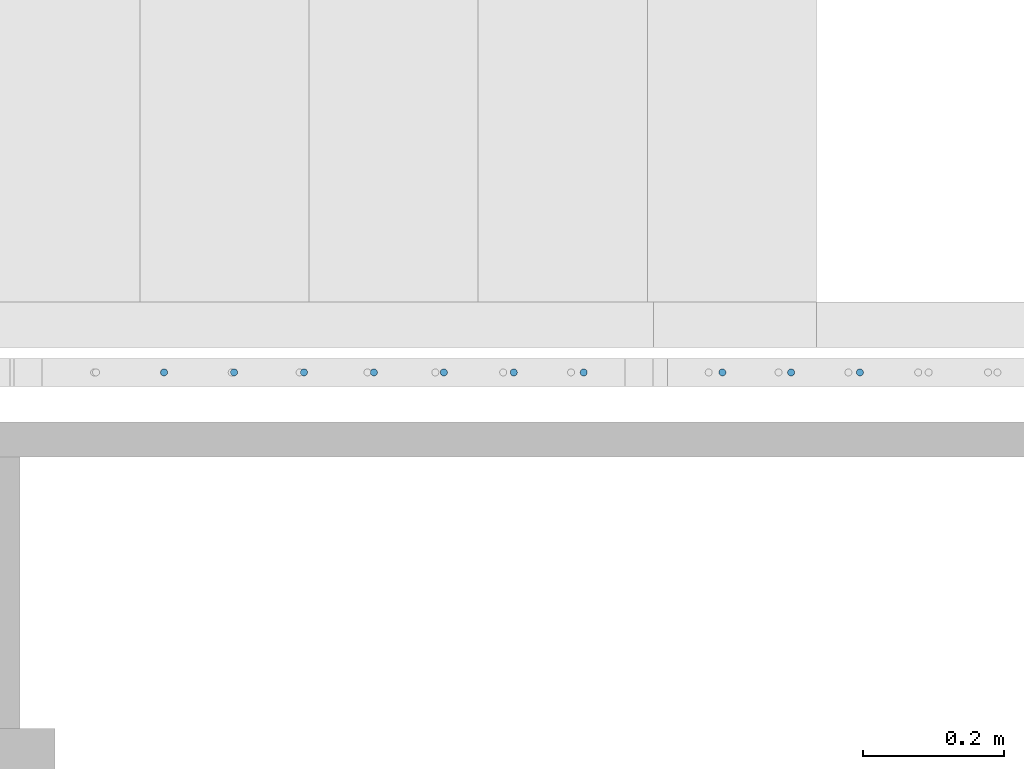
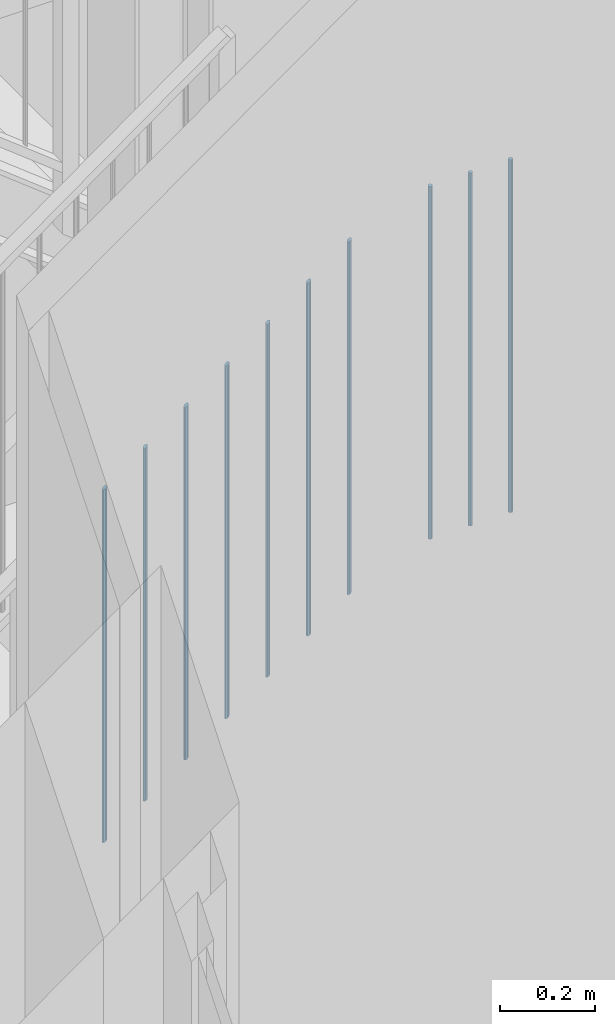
# One storey, part 17 of 135: 10 members, 1 element without a shape of its own.
"""IFC2X3 building model written with IfcOpenShell, lengths in millimetres."""

from ifc_helpers import new_model, entity, si_unit, converted_unit, derived_unit, money_unit, direction, frame, origin_with_axes, place, context, subcontext, project, spatial, faceted_brep, source, transform, mapped, material, type_object, type_shapes, element, aggregate, save


model = new_model("IFC2X3")

# Units and contexts
model_context = context("Model", 3, precision=0.01, world=origin_with_axes(), true_north=direction((0.0, 1.0)))
body_context = subcontext(model_context, "Body", "Model", "MODEL_VIEW")
ifc_project = project(units=[si_unit("LENGTHUNIT", "METRE", prefix="MILLI"), si_unit("AREAUNIT", "SQUARE_METRE"), si_unit("VOLUMEUNIT", "CUBIC_METRE"), converted_unit("PLANEANGLEUNIT", "DEGREE", entity("IfcPlaneAngleMeasure", 0.0174532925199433), si_unit("PLANEANGLEUNIT", "RADIAN"), dimensions=[0, 0, 0, 0, 0, 0, 0]), money_unit("EUR"), converted_unit("TIMEUNIT", "Year", entity("IfcTimeMeasure", 31557600.0), si_unit("TIMEUNIT", "SECOND"), dimensions=[0, 0, 1, 0, 0, 0, 0]), si_unit("MASSUNIT", "GRAM", prefix="KILO"), si_unit("THERMODYNAMICTEMPERATUREUNIT", "DEGREE_CELSIUS"), si_unit("LUMINOUSINTENSITYUNIT", "LUMEN"), si_unit("ENERGYUNIT", "JOULE", prefix="MEGA"), derived_unit("THERMALCONDUCTANCEUNIT", [(si_unit("POWERUNIT", "WATT"), 1), (si_unit("LENGTHUNIT", "METRE"), -1), (si_unit("THERMODYNAMICTEMPERATUREUNIT", "KELVIN"), -1)]), derived_unit("SPECIFICHEATCAPACITYUNIT", [(si_unit("ENERGYUNIT", "JOULE"), 1), (si_unit("MASSUNIT", "GRAM", prefix="KILO"), -1), (si_unit("THERMODYNAMICTEMPERATUREUNIT", "KELVIN"), -1)]), derived_unit("MASSDENSITYUNIT", [(si_unit("MASSUNIT", "GRAM", prefix="KILO"), 1), (si_unit("VOLUMEUNIT", "CUBIC_METRE"), -1)])], contexts=[model_context])

# Site, building, storey
site_placement = place(None, origin_with_axes())
site = spatial("IfcSite", under=ifc_project, at=site_placement, Name="Site", CompositionType="ELEMENT")
building_placement = place(site_placement, origin_with_axes())
building = spatial("IfcBuilding", under=site, at=building_placement, Name="Naam gebouw", CompositionType="ELEMENT")
storey_placement = place(building_placement, origin_with_axes())
storey = spatial("IfcBuildingStorey", under=building, at=storey_placement, Name="Begane grond N", CompositionType="ELEMENT", Elevation=0.0)

# Railing, members
railing_type = type_object("IfcRailingType", Name="Railing Type", PredefinedType="NOTDEFINED")
railing_placement = place(storey_placement, frame((56236.62159597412, 21185.9124251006, 157.4646725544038), z_axis=(0.0, 0.0, 1.0), x_axis=(1.0, 0.0, 0.0)))
railing = element("IfcRailing", 1, at=railing_placement, inside=storey, type_object=railing_type, Name="_Reling-x", PredefinedType="NOTDEFINED")
ifc_material = material(Name="Metaal - Staal C")
member_type = type_object("IfcMemberType", Name="IfcMember", PredefinedType="MEMBER")
shared_shape_1 = source(origin_with_axes(), body_context, "Body", "Brep", [
    faceted_brep([(0.0, -4.999999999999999, -3.602430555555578), (0.8682408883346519, -4.924038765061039, -3.547701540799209), (0.8682408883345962, -4.924038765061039, 903.9522984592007), (0.0, -4.999999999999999, 903.8975694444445), (-0.8682408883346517, -4.924038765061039, -3.547701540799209), (-1.710100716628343, -4.698463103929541, -3.385177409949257), (-2.500000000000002, -4.330127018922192, -3.119796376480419), (-3.213938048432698, -3.830222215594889, -2.759621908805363), (-3.830222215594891, -3.213938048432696, -2.315597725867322), (-4.330127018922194, -2.5, -1.80121527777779), (-4.698463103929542, -1.710100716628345, -1.232103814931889), (-4.924038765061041, -0.8682408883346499, -0.6255555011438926), (-5.0, 0.0, 0.0), (-4.92403876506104, 0.8682408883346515, 0.6255555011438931), (-4.698463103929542, 1.710100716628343, 1.232103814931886), (-4.330127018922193, 2.500000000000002, 1.801215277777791), (-3.83022221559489, 3.213938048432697, 2.315597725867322), (-3.213938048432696, 3.83022221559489, 2.759621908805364), (-2.5, 4.330127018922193, 3.119796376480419), (-1.710100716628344, 4.698463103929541, 3.385177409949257), (-0.8682408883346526, 4.924038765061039, 3.547701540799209), (0.0, 4.999999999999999, 3.602430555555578), (0.8682408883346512, 4.924038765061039, 3.547701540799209), (1.710100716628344, 4.698463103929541, 3.385177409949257), (2.5, 4.330127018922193, 3.119796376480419), (3.213938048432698, 3.830222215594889, 2.759621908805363), (3.83022221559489, 3.213938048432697, 2.315597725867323), (4.330127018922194, 2.499999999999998, 1.801215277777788), (4.698463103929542, 1.710100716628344, 1.232103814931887), (4.92403876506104, 0.8682408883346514, 0.6255555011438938), (5.0, 0.0, 0.0), (4.92403876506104, -0.868240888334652, -0.6255555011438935), (4.698463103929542, -1.710100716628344, -1.232103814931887), (4.330127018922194, -2.5, -1.801215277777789), (3.83022221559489, -3.213938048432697, -2.315597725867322), (3.213938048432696, -3.83022221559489, -2.759621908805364), (2.5, -4.330127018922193, -3.119796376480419), (1.710100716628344, -4.698463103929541, -3.385177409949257), (1.710100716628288, -4.698463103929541, 904.1148225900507), (2.499999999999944, -4.330127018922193, 904.3802036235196), (3.213938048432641, -3.83022221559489, 904.7403780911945), (3.830222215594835, -3.213938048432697, 905.1844022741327), (4.330127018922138, -2.5, 905.6987847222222), (4.698463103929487, -1.710100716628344, 906.2678961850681), (4.924038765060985, -0.868240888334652, 906.8744444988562), (4.999999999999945, 0.0, 907.5), (4.924038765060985, 0.8682408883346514, 908.1255555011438), (4.698463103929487, 1.710100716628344, 908.7321038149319), (4.330127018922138, 2.499999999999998, 909.3012152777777), (3.830222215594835, 3.213938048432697, 909.8155977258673), (3.213938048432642, 3.830222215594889, 910.2596219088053), (2.499999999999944, 4.330127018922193, 910.6197963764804), (1.710100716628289, 4.698463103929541, 910.8851774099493), (0.8682408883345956, 4.924038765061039, 911.0477015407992), (0.0, 4.999999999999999, 911.1024305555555), (-0.8682408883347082, 4.924038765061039, 911.0477015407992), (-1.710100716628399, 4.698463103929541, 910.8851774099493), (-2.500000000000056, 4.330127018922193, 910.6197963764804), (-3.213938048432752, 3.83022221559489, 910.2596219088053), (-3.830222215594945, 3.213938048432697, 909.8155977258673), (-4.330127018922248, 2.500000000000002, 909.3012152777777), (-4.698463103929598, 1.710100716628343, 908.7321038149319), (-4.924038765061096, 0.8682408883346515, 908.1255555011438), (-5.000000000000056, 0.0, 907.5), (-4.924038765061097, -0.8682408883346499, 906.8744444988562), (-4.698463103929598, -1.710100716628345, 906.2678961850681), (-4.330127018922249, -2.5, 905.6987847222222), (-3.830222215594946, -3.213938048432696, 905.1844022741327), (-3.213938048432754, -3.830222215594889, 904.7403780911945), (-2.500000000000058, -4.330127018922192, 904.3802036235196), (-1.710100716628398, -4.698463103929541, 904.1148225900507), (-0.8682408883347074, -4.924038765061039, 903.9522984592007)], [[[0, 1, 2, 3]], [[0, 4, 5, 6, 7, 8, 9, 10, 11, 12, 13, 14, 15, 16, 17, 18, 19, 20, 21, 22, 23, 24, 25, 26, 27, 28, 29, 30, 31, 32, 33, 34, 35, 36, 37, 1]], [[1, 37, 38, 2]], [[3, 2, 38, 39, 40, 41, 42, 43, 44, 45, 46, 47, 48, 49, 50, 51, 52, 53, 54, 55, 56, 57, 58, 59, 60, 61, 62, 63, 64, 65, 66, 67, 68, 69, 70, 71]], [[4, 0, 3, 71]], [[5, 4, 71, 70]], [[6, 5, 70, 69]], [[7, 6, 69, 68]], [[8, 7, 68, 67]], [[9, 8, 67, 66]], [[10, 9, 66, 65]], [[11, 10, 65, 64]], [[12, 11, 64, 63]], [[13, 12, 63, 62]], [[14, 13, 62, 61]], [[15, 14, 61, 60]], [[16, 15, 60, 59]], [[17, 16, 59, 58]], [[18, 17, 58, 57]], [[19, 18, 57, 56]], [[20, 19, 56, 55]], [[21, 20, 55, 54]], [[22, 21, 54, 53]], [[23, 22, 53, 52]], [[24, 23, 52, 51]], [[25, 24, 51, 50]], [[26, 25, 50, 49]], [[27, 26, 49, 48]], [[28, 27, 48, 47]], [[29, 28, 47, 46]], [[30, 29, 46, 45]], [[31, 30, 45, 44]], [[32, 31, 44, 43]], [[33, 32, 43, 42]], [[34, 33, 42, 41]], [[35, 34, 41, 40]], [[36, 35, 40, 39]], [[37, 36, 39, 38]]]),
])
member_1_placement = place(railing_placement, frame((1847.850244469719, -24.99999999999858, 1499.784398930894), z_axis=(0.0, 0.0, 1.0), x_axis=(1.0, 0.0, 0.0)))
member_1 = element("IfcMember", 2, at=member_1_placement, type_object=member_type, material=ifc_material, Name="_Spijlen-x", ObjectType="MEMBER", context=body_context, shape_type="MappedRepresentation", body=[
    mapped(shared_shape_1, transform((0.0, 0.0, 0.0), x_axis=(0.0, -1.0, 0.0), y_axis=(1.0, 0.0, 0.0), z_axis=(0.0, 0.0, 1.0))),
])
member_2_placement = place(railing_placement, frame((2046.297428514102, -24.99999999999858, 1642.762838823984), z_axis=(0.0, 0.0, 1.0), x_axis=(1.0, 0.0, 0.0)))
member_2 = element("IfcMember", 3, at=member_2_placement, type_object=member_type, material=ifc_material, Name="_Spijlen-x", ObjectType="MEMBER", context=body_context, shape_type="MappedRepresentation", body=[
    mapped(shared_shape_1, transform((0.0, 0.0, 0.0), x_axis=(0.0, -1.0, 0.0), y_axis=(1.0, 0.0, 0.0), z_axis=(0.0, 0.0, 1.0))),
])
member_3_placement = place(railing_placement, frame((1947.07383649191, -24.99999999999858, 1571.273618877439), z_axis=(0.0, 0.0, 1.0), x_axis=(1.0, 0.0, 0.0)))
member_3 = element("IfcMember", 4, at=member_3_placement, type_object=member_type, material=ifc_material, Name="_Spijlen-x", ObjectType="MEMBER", context=body_context, shape_type="MappedRepresentation", body=[
    mapped(shared_shape_1, transform((0.0, 0.0, 0.0), x_axis=(0.0, -1.0, 0.0), y_axis=(1.0, 0.0, 0.0), z_axis=(0.0, 0.0, 1.0))),
])
member_4_placement = place(railing_placement, frame((2145.521020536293, -24.99999999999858, 1714.252058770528), z_axis=(0.0, 0.0, 1.0), x_axis=(1.0, 0.0, 0.0)))
member_4 = element("IfcMember", 5, at=member_4_placement, type_object=member_type, material=ifc_material, Name="_Spijlen-x", ObjectType="MEMBER", context=body_context, shape_type="MappedRepresentation", body=[
    mapped(shared_shape_1, transform((0.0, 0.0, 0.0), x_axis=(0.0, -1.0, 0.0), y_axis=(1.0, 0.0, 0.0), z_axis=(0.0, 0.0, 1.0))),
])
member_5_placement = place(railing_placement, frame((2244.744612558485, -24.99999999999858, 1785.741278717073), z_axis=(0.0, 0.0, 1.0), x_axis=(1.0, 0.0, 0.0)))
member_5 = element("IfcMember", 6, at=member_5_placement, type_object=member_type, material=ifc_material, Name="_Spijlen-x", ObjectType="MEMBER", context=body_context, shape_type="MappedRepresentation", body=[
    mapped(shared_shape_1, transform((0.0, 0.0, 0.0), x_axis=(0.0, -1.0, 0.0), y_axis=(1.0, 0.0, 0.0), z_axis=(0.0, 0.0, 1.0))),
])
member_6_placement = place(railing_placement, frame((2343.968204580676, -24.99999999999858, 1857.230498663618), z_axis=(0.0, 0.0, 1.0), x_axis=(1.0, 0.0, 0.0)))
member_6 = element("IfcMember", 7, at=member_6_placement, type_object=member_type, material=ifc_material, Name="_Spijlen-x", ObjectType="MEMBER", context=body_context, shape_type="MappedRepresentation", body=[
    mapped(shared_shape_1, transform((0.0, 0.0, 0.0), x_axis=(0.0, -1.0, 0.0), y_axis=(1.0, 0.0, 0.0), z_axis=(0.0, 0.0, 1.0))),
])
member_7_placement = place(railing_placement, frame((2443.191796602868, -24.99999999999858, 1928.719718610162), z_axis=(0.0, 0.0, 1.0), x_axis=(1.0, 0.0, 0.0)))
member_7 = element("IfcMember", 8, at=member_7_placement, type_object=member_type, material=ifc_material, Name="_Spijlen-x", ObjectType="MEMBER", context=body_context, shape_type="MappedRepresentation", body=[
    mapped(shared_shape_1, transform((0.0, 0.0, 0.0), x_axis=(0.0, -1.0, 0.0), y_axis=(1.0, 0.0, 0.0), z_axis=(0.0, 0.0, 1.0))),
])
shared_shape_2 = source(origin_with_axes(), body_context, "Body", "Brep", [
    faceted_brep([(0.0, -5.0, 0.0), (0.8682408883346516, -4.92403876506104, 0.0), (0.868240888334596, -4.92403876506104, 907.5000000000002), (0.0, -5.0, 907.5000000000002), (-0.868240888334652, -4.92403876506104, 0.0), (-1.710100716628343, -4.698463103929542, 0.0), (-2.500000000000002, -4.330127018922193, 0.0), (-3.213938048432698, -3.830222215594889, 0.0), (-3.830222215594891, -3.213938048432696, 0.0), (-4.330127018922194, -2.5, 0.0), (-4.698463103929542, -1.710100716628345, 0.0), (-4.924038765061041, -0.86824088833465, 0.0), (-5.0, 0.0, 0.0), (-4.92403876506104, 0.8682408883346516, 0.0), (-4.698463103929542, 1.710100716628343, 0.0), (-4.330127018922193, 2.500000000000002, 0.0), (-3.83022221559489, 3.213938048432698, 0.0), (-3.213938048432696, 3.83022221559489, 0.0), (-2.5, 4.330127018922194, 0.0), (-1.710100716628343, 4.698463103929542, 0.0), (-0.8682408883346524, 4.92403876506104, 0.0), (0.0, 5.0, 0.0), (0.8682408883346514, 4.92403876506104, 0.0), (1.710100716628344, 4.698463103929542, 0.0), (2.5, 4.330127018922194, 0.0), (3.213938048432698, 3.83022221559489, 0.0), (3.83022221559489, 3.213938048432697, 0.0), (4.330127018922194, 2.499999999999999, 0.0), (4.698463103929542, 1.710100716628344, 0.0), (4.92403876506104, 0.8682408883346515, 0.0), (5.0, 0.0, 0.0), (4.92403876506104, -0.8682408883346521, 0.0), (4.698463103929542, -1.710100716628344, 0.0), (4.330127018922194, -2.5, 0.0), (3.83022221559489, -3.213938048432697, 0.0), (3.213938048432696, -3.83022221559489, 0.0), (2.5, -4.330127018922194, 0.0), (1.710100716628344, -4.698463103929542, 0.0), (1.710100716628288, -4.698463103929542, 907.5000000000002), (2.499999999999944, -4.330127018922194, 907.5000000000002), (3.213938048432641, -3.83022221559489, 907.5000000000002), (3.830222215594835, -3.213938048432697, 907.5000000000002), (4.330127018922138, -2.5, 907.5000000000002), (4.698463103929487, -1.710100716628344, 907.5000000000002), (4.924038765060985, -0.8682408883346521, 907.5000000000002), (4.999999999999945, 0.0, 907.5000000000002), (4.924038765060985, 0.8682408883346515, 907.5000000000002), (4.698463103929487, 1.710100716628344, 907.5000000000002), (4.330127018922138, 2.499999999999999, 907.5000000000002), (3.830222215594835, 3.213938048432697, 907.5000000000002), (3.213938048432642, 3.83022221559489, 907.5000000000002), (2.499999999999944, 4.330127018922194, 907.5000000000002), (1.710100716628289, 4.698463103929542, 907.5000000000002), (0.8682408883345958, 4.92403876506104, 907.5000000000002), (0.0, 5.0, 907.5000000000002), (-0.868240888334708, 4.92403876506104, 907.5000000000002), (-1.710100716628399, 4.698463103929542, 907.5000000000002), (-2.500000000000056, 4.330127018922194, 907.5000000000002), (-3.213938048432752, 3.83022221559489, 907.5000000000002), (-3.830222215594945, 3.213938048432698, 907.5000000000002), (-4.330127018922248, 2.500000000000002, 907.5000000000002), (-4.698463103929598, 1.710100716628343, 907.5000000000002), (-4.924038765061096, 0.8682408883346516, 907.5000000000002), (-5.000000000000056, 0.0, 907.5000000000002), (-4.924038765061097, -0.86824088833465, 907.5000000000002), (-4.698463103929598, -1.710100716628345, 907.5000000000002), (-4.330127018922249, -2.5, 907.5000000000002), (-3.830222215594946, -3.213938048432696, 907.5000000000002), (-3.213938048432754, -3.830222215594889, 907.5000000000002), (-2.500000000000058, -4.330127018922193, 907.5000000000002), (-1.710100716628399, -4.698463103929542, 907.5000000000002), (-0.8682408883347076, -4.92403876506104, 907.5000000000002)], [[[0, 1, 2, 3]], [[0, 4, 5, 6, 7, 8, 9, 10, 11, 12, 13, 14, 15, 16, 17, 18, 19, 20, 21, 22, 23, 24, 25, 26, 27, 28, 29, 30, 31, 32, 33, 34, 35, 36, 37, 1]], [[1, 37, 38, 2]], [[3, 2, 38, 39, 40, 41, 42, 43, 44, 45, 46, 47, 48, 49, 50, 51, 52, 53, 54, 55, 56, 57, 58, 59, 60, 61, 62, 63, 64, 65, 66, 67, 68, 69, 70, 71]], [[4, 0, 3, 71]], [[5, 4, 71, 70]], [[6, 5, 70, 69]], [[7, 6, 69, 68]], [[8, 7, 68, 67]], [[9, 8, 67, 66]], [[10, 9, 66, 65]], [[11, 10, 65, 64]], [[12, 11, 64, 63]], [[13, 12, 63, 62]], [[14, 13, 62, 61]], [[15, 14, 61, 60]], [[16, 15, 60, 59]], [[17, 16, 59, 58]], [[18, 17, 58, 57]], [[19, 18, 57, 56]], [[20, 19, 56, 55]], [[21, 20, 55, 54]], [[22, 21, 54, 53]], [[23, 22, 53, 52]], [[24, 23, 52, 51]], [[25, 24, 51, 50]], [[26, 25, 50, 49]], [[27, 26, 49, 48]], [[28, 27, 48, 47]], [[29, 28, 47, 46]], [[30, 29, 46, 45]], [[31, 30, 45, 44]], [[32, 31, 44, 43]], [[33, 32, 43, 42]], [[34, 33, 42, 41]], [[35, 34, 41, 40]], [[36, 35, 40, 39]], [[37, 36, 39, 38]]]),
])
type_shapes(member_type, [shared_shape_1, shared_shape_2])
member_8_placement = place(railing_placement, frame((2639.959836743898, -24.99999999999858, 2000.208938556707), z_axis=(0.0, 0.0, 1.0), x_axis=(1.0, 0.0, 0.0)))
member_8 = element("IfcMember", 9, at=member_8_placement, type_object=member_type, material=ifc_material, Name="_Spijlen-x", ObjectType="MEMBER", context=body_context, shape_type="MappedRepresentation", body=[
    mapped(shared_shape_2, transform((0.0, 0.0, 0.0), x_axis=(0.0, -1.0, 0.0), y_axis=(1.0, 0.0, 0.0), z_axis=(0.0, 0.0, 1.0))),
])
member_9_placement = place(railing_placement, frame((2737.50428486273, -24.99999999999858, 2000.208938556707), z_axis=(0.0, 0.0, 1.0), x_axis=(1.0, 0.0, 0.0)))
member_9 = element("IfcMember", 10, at=member_9_placement, type_object=member_type, material=ifc_material, Name="_Spijlen-x", ObjectType="MEMBER", context=body_context, shape_type="MappedRepresentation", body=[
    mapped(shared_shape_2, transform((0.0, 0.0, 0.0), x_axis=(0.0, -1.0, 0.0), y_axis=(1.0, 0.0, 0.0), z_axis=(0.0, 0.0, 1.0))),
])
member_10_placement = place(railing_placement, frame((2835.048732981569, -24.99999999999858, 2000.208938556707), z_axis=(0.0, 0.0, 1.0), x_axis=(1.0, 0.0, 0.0)))
member_10 = element("IfcMember", 11, at=member_10_placement, type_object=member_type, material=ifc_material, Name="_Spijlen-x", ObjectType="MEMBER", context=body_context, shape_type="MappedRepresentation", body=[
    mapped(shared_shape_2, transform((0.0, 0.0, 0.0), x_axis=(0.0, -1.0, 0.0), y_axis=(1.0, 0.0, 0.0), z_axis=(0.0, 0.0, 1.0))),
])
aggregate(railing, [member_1, member_2, member_3, member_4, member_5, member_6, member_7, member_8, member_9, member_10])

save(model, "model.ifc")
